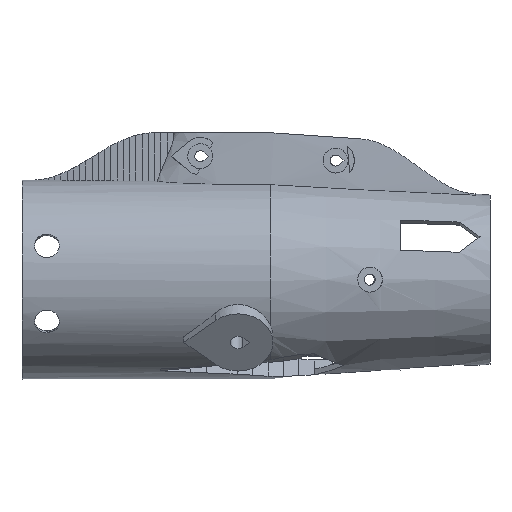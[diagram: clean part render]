
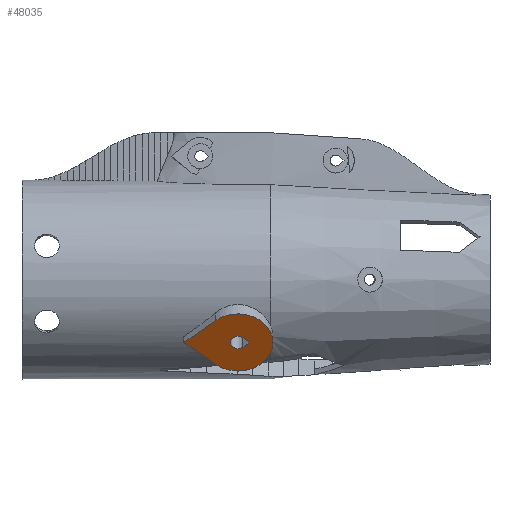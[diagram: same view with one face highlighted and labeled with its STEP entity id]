
A CAD part, front view. The second image highlights one B-rep face of the part: STEP entity #48035.
In plain terms, the highlighted planar face has unit normal (0, -0.819, -0.574).
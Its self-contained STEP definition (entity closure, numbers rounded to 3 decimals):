
#1913 = CYLINDRICAL_SURFACE('',#1914,7.);
#1914 = AXIS2_PLACEMENT_3D('',#1915,#1916,#1917);
#1915 = CARTESIAN_POINT('',(413.4,-9.83,-6.883));
#1916 = DIRECTION('',(-0.,-0.819,-0.574));
#1917 = DIRECTION('',(-0.,-0.574,0.819));
#1984 = PLANE('',#1985);
#1985 = AXIS2_PLACEMENT_3D('',#1986,#1987,#1988);
#1986 = CARTESIAN_POINT('',(408.9,-6.754,
    -11.275));
#1987 = DIRECTION('',(0.643,-0.439,0.628));
#1988 = DIRECTION('',(0.766,0.369,-0.527));
#2016 = PLANE('',#2017);
#2017 = AXIS2_PLACEMENT_3D('',#2018,#2019,#2020);
#2018 = CARTESIAN_POINT('',(402.51,-9.83,
    -6.883));
#2019 = DIRECTION('',(0.643,0.439,-0.628));
#2020 = DIRECTION('',(-0.766,0.369,-0.527));
#47898 = CYLINDRICAL_SURFACE('',#47899,1.525);
#47899 = AXIS2_PLACEMENT_3D('',#47900,#47901,#47902);
#47900 = CARTESIAN_POINT('',(413.4,-4.096,-2.868));
#47901 = DIRECTION('',(-0.,-0.819,-0.574));
#47902 = DIRECTION('',(-0.,-0.574,0.819));
#47926 = PLANE('',#47927);
#47927 = AXIS2_PLACEMENT_3D('',#47928,#47929,#47930);
#47928 = CARTESIAN_POINT('',(414.38,-3.426,
    -3.825));
#47929 = DIRECTION('',(0.643,0.439,-0.628));
#47930 = DIRECTION('',(-0.766,0.369,-0.527));
#47951 = PLANE('',#47952);
#47952 = AXIS2_PLACEMENT_3D('',#47953,#47954,#47955);
#47953 = CARTESIAN_POINT('',(415.772,-4.096,
    -2.868));
#47954 = DIRECTION('',(0.643,-0.439,0.628));
#47955 = DIRECTION('',(0.766,0.369,-0.527));
#47967 = VERTEX_POINT('',#47968);
#47968 = CARTESIAN_POINT('',(415.772,-18.021,
    -12.619));
#47989 = EDGE_CURVE('',#47967,#47990,#47992,.T.);
#47990 = VERTEX_POINT('',#47991);
#47991 = CARTESIAN_POINT('',(414.38,-18.691,
    -11.662));
#47992 = SURFACE_CURVE('',#47993,(#47997,#48003),.PCURVE_S1.);
#47993 = LINE('',#47994,#47995);
#47994 = CARTESIAN_POINT('',(415.076,-18.356,
    -12.14));
#47995 = VECTOR('',#47996,1.);
#47996 = DIRECTION('',(-0.766,-0.369,0.527));
#47997 = PCURVE('',#47951,#47998);
#47998 = DEFINITIONAL_REPRESENTATION('',(#47999),#48002);
#47999 = B_SPLINE_CURVE_WITH_KNOTS('',1,(#48000,#48001),.UNSPECIFIED.,
  .F.,.F.,(2,2),(-0.909,0.909),
  .PIECEWISE_BEZIER_KNOTS.);
#48000 = CARTESIAN_POINT('',(0.,-17.));
#48001 = CARTESIAN_POINT('',(-1.817,-17.));
#48002 = ( GEOMETRIC_REPRESENTATION_CONTEXT(2) 
PARAMETRIC_REPRESENTATION_CONTEXT() REPRESENTATION_CONTEXT('2D SPACE',''
  ) );
#48003 = PCURVE('',#48004,#48009);
#48004 = PLANE('',#48005);
#48005 = AXIS2_PLACEMENT_3D('',#48006,#48007,#48008);
#48006 = CARTESIAN_POINT('',(413.4,-18.021,-12.619));
#48007 = DIRECTION('',(-0.,-0.819,-0.574));
#48008 = DIRECTION('',(0.,0.574,-0.819));
#48009 = DEFINITIONAL_REPRESENTATION('',(#48010),#48014);
#48010 = LINE('',#48011,#48012);
#48011 = CARTESIAN_POINT('',(-0.584,1.676));
#48012 = VECTOR('',#48013,1.);
#48013 = DIRECTION('',(-0.643,-0.766));
#48014 = ( GEOMETRIC_REPRESENTATION_CONTEXT(2) 
PARAMETRIC_REPRESENTATION_CONTEXT() REPRESENTATION_CONTEXT('2D SPACE',''
  ) );
#48035 = ADVANCED_FACE('',(#48036,#48112),#48004,.T.);
#48036 = FACE_BOUND('',#48037,.F.);
#48037 = EDGE_LOOP('',(#48038,#48068,#48091));
#48038 = ORIENTED_EDGE('',*,*,#48039,.T.);
#48039 = EDGE_CURVE('',#48040,#48042,#48044,.T.);
#48040 = VERTEX_POINT('',#48041);
#48041 = CARTESIAN_POINT('',(408.9,-21.097,
    -8.226));
#48042 = VERTEX_POINT('',#48043);
#48043 = CARTESIAN_POINT('',(408.9,-14.946,
    -17.011));
#48044 = SURFACE_CURVE('',#48045,(#48050,#48061),.PCURVE_S1.);
#48045 = CIRCLE('',#48046,7.);
#48046 = AXIS2_PLACEMENT_3D('',#48047,#48048,#48049);
#48047 = CARTESIAN_POINT('',(413.4,-18.021,-12.619));
#48048 = DIRECTION('',(0.,0.819,0.574));
#48049 = DIRECTION('',(-0.643,-0.439,0.628));
#48050 = PCURVE('',#48004,#48051);
#48051 = DEFINITIONAL_REPRESENTATION('',(#48052),#48060);
#48052 = ( BOUNDED_CURVE() B_SPLINE_CURVE(2,(#48053,#48054,#48055,#48056
    ,#48057,#48058,#48059),.UNSPECIFIED.,.T.,.F.) 
B_SPLINE_CURVE_WITH_KNOTS((1,2,2,2,2,1),(-2.094,0.,
    2.094,4.189,6.283,8.378),
.UNSPECIFIED.) CURVE() GEOMETRIC_REPRESENTATION_ITEM() 
RATIONAL_B_SPLINE_CURVE((1.,0.5,1.,0.5,1.,0.5,1.)) REPRESENTATION_ITEM(
  '') );
#48053 = CARTESIAN_POINT('',(-5.362,-4.5));
#48054 = CARTESIAN_POINT('',(-13.156,4.788));
#48055 = CARTESIAN_POINT('',(-1.216,6.894));
#48056 = CARTESIAN_POINT('',(10.725,8.999));
#48057 = CARTESIAN_POINT('',(6.578,-2.394));
#48058 = CARTESIAN_POINT('',(2.431,-13.787));
#48059 = CARTESIAN_POINT('',(-5.362,-4.5));
#48060 = ( GEOMETRIC_REPRESENTATION_CONTEXT(2) 
PARAMETRIC_REPRESENTATION_CONTEXT() REPRESENTATION_CONTEXT('2D SPACE',''
  ) );
#48061 = PCURVE('',#1913,#48062);
#48062 = DEFINITIONAL_REPRESENTATION('',(#48063),#48067);
#48063 = LINE('',#48064,#48065);
#48064 = CARTESIAN_POINT('',(-5.585,10.));
#48065 = VECTOR('',#48066,1.);
#48066 = DIRECTION('',(-1.,0.));
#48067 = ( GEOMETRIC_REPRESENTATION_CONTEXT(2) 
PARAMETRIC_REPRESENTATION_CONTEXT() REPRESENTATION_CONTEXT('2D SPACE',''
  ) );
#48068 = ORIENTED_EDGE('',*,*,#48069,.T.);
#48069 = EDGE_CURVE('',#48042,#48070,#48072,.T.);
#48070 = VERTEX_POINT('',#48071);
#48071 = CARTESIAN_POINT('',(402.51,-18.021,
    -12.619));
#48072 = SURFACE_CURVE('',#48073,(#48077,#48084),.PCURVE_S1.);
#48073 = LINE('',#48074,#48075);
#48074 = CARTESIAN_POINT('',(408.9,-14.946,
    -17.011));
#48075 = VECTOR('',#48076,1.);
#48076 = DIRECTION('',(-0.766,-0.369,0.527));
#48077 = PCURVE('',#48004,#48078);
#48078 = DEFINITIONAL_REPRESENTATION('',(#48079),#48083);
#48079 = LINE('',#48080,#48081);
#48080 = CARTESIAN_POINT('',(5.362,-4.5));
#48081 = VECTOR('',#48082,1.);
#48082 = DIRECTION('',(-0.643,-0.766));
#48083 = ( GEOMETRIC_REPRESENTATION_CONTEXT(2) 
PARAMETRIC_REPRESENTATION_CONTEXT() REPRESENTATION_CONTEXT('2D SPACE',''
  ) );
#48084 = PCURVE('',#1984,#48085);
#48085 = DEFINITIONAL_REPRESENTATION('',(#48086),#48090);
#48086 = LINE('',#48087,#48088);
#48087 = CARTESIAN_POINT('',(0.,-10.));
#48088 = VECTOR('',#48089,1.);
#48089 = DIRECTION('',(-1.,0.));
#48090 = ( GEOMETRIC_REPRESENTATION_CONTEXT(2) 
PARAMETRIC_REPRESENTATION_CONTEXT() REPRESENTATION_CONTEXT('2D SPACE',''
  ) );
#48091 = ORIENTED_EDGE('',*,*,#48092,.T.);
#48092 = EDGE_CURVE('',#48070,#48040,#48093,.T.);
#48093 = SURFACE_CURVE('',#48094,(#48098,#48105),.PCURVE_S1.);
#48094 = LINE('',#48095,#48096);
#48095 = CARTESIAN_POINT('',(402.51,-18.021,
    -12.619));
#48096 = VECTOR('',#48097,1.);
#48097 = DIRECTION('',(0.766,-0.369,0.527));
#48098 = PCURVE('',#48004,#48099);
#48099 = DEFINITIONAL_REPRESENTATION('',(#48100),#48104);
#48100 = LINE('',#48101,#48102);
#48101 = CARTESIAN_POINT('',(-0.,-10.89));
#48102 = VECTOR('',#48103,1.);
#48103 = DIRECTION('',(-0.643,0.766));
#48104 = ( GEOMETRIC_REPRESENTATION_CONTEXT(2) 
PARAMETRIC_REPRESENTATION_CONTEXT() REPRESENTATION_CONTEXT('2D SPACE',''
  ) );
#48105 = PCURVE('',#2016,#48106);
#48106 = DEFINITIONAL_REPRESENTATION('',(#48107),#48111);
#48107 = LINE('',#48108,#48109);
#48108 = CARTESIAN_POINT('',(0.,-10.));
#48109 = VECTOR('',#48110,1.);
#48110 = DIRECTION('',(-1.,0.));
#48111 = ( GEOMETRIC_REPRESENTATION_CONTEXT(2) 
PARAMETRIC_REPRESENTATION_CONTEXT() REPRESENTATION_CONTEXT('2D SPACE',''
  ) );
#48112 = FACE_BOUND('',#48113,.F.);
#48113 = EDGE_LOOP('',(#48114,#48142,#48162));
#48114 = ORIENTED_EDGE('',*,*,#48115,.F.);
#48115 = EDGE_CURVE('',#48116,#47990,#48118,.T.);
#48116 = VERTEX_POINT('',#48117);
#48117 = CARTESIAN_POINT('',(414.38,-17.351,
    -13.576));
#48118 = SURFACE_CURVE('',#48119,(#48124,#48135),.PCURVE_S1.);
#48119 = CIRCLE('',#48120,1.525);
#48120 = AXIS2_PLACEMENT_3D('',#48121,#48122,#48123);
#48121 = CARTESIAN_POINT('',(413.4,-18.021,-12.619));
#48122 = DIRECTION('',(0.,0.819,0.574)
  );
#48123 = DIRECTION('',(0.643,0.439,-0.628));
#48124 = PCURVE('',#48004,#48125);
#48125 = DEFINITIONAL_REPRESENTATION('',(#48126),#48134);
#48126 = ( BOUNDED_CURVE() B_SPLINE_CURVE(2,(#48127,#48128,#48129,#48130
    ,#48131,#48132,#48133),.UNSPECIFIED.,.T.,.F.) 
B_SPLINE_CURVE_WITH_KNOTS((1,2,2,2,2,1),(-2.094,0.,
    2.094,4.189,6.283,8.378),
.UNSPECIFIED.) CURVE() GEOMETRIC_REPRESENTATION_ITEM() 
RATIONAL_B_SPLINE_CURVE((1.,0.5,1.,0.5,1.,0.5,1.)) REPRESENTATION_ITEM(
  '') );
#48127 = CARTESIAN_POINT('',(1.168,0.98));
#48128 = CARTESIAN_POINT('',(2.866,-1.043));
#48129 = CARTESIAN_POINT('',(0.265,-1.502));
#48130 = CARTESIAN_POINT('',(-2.336,-1.961));
#48131 = CARTESIAN_POINT('',(-1.433,0.522));
#48132 = CARTESIAN_POINT('',(-0.53,3.004));
#48133 = CARTESIAN_POINT('',(1.168,0.98));
#48134 = ( GEOMETRIC_REPRESENTATION_CONTEXT(2) 
PARAMETRIC_REPRESENTATION_CONTEXT() REPRESENTATION_CONTEXT('2D SPACE',''
  ) );
#48135 = PCURVE('',#47898,#48136);
#48136 = DEFINITIONAL_REPRESENTATION('',(#48137),#48141);
#48137 = LINE('',#48138,#48139);
#48138 = CARTESIAN_POINT('',(-2.443,17.));
#48139 = VECTOR('',#48140,1.);
#48140 = DIRECTION('',(-1.,-0.));
#48141 = ( GEOMETRIC_REPRESENTATION_CONTEXT(2) 
PARAMETRIC_REPRESENTATION_CONTEXT() REPRESENTATION_CONTEXT('2D SPACE',''
  ) );
#48142 = ORIENTED_EDGE('',*,*,#48143,.T.);
#48143 = EDGE_CURVE('',#48116,#47967,#48144,.T.);
#48144 = SURFACE_CURVE('',#48145,(#48149,#48156),.PCURVE_S1.);
#48145 = LINE('',#48146,#48147);
#48146 = CARTESIAN_POINT('',(414.38,-17.351,
    -13.576));
#48147 = VECTOR('',#48148,1.);
#48148 = DIRECTION('',(0.766,-0.369,0.527));
#48149 = PCURVE('',#48004,#48150);
#48150 = DEFINITIONAL_REPRESENTATION('',(#48151),#48155);
#48151 = LINE('',#48152,#48153);
#48152 = CARTESIAN_POINT('',(1.168,0.98));
#48153 = VECTOR('',#48154,1.);
#48154 = DIRECTION('',(-0.643,0.766));
#48155 = ( GEOMETRIC_REPRESENTATION_CONTEXT(2) 
PARAMETRIC_REPRESENTATION_CONTEXT() REPRESENTATION_CONTEXT('2D SPACE',''
  ) );
#48156 = PCURVE('',#47926,#48157);
#48157 = DEFINITIONAL_REPRESENTATION('',(#48158),#48161);
#48158 = B_SPLINE_CURVE_WITH_KNOTS('',1,(#48159,#48160),.UNSPECIFIED.,
  .F.,.F.,(2,2),(0.,1.817),
  .PIECEWISE_BEZIER_KNOTS.);
#48159 = CARTESIAN_POINT('',(0.,-17.));
#48160 = CARTESIAN_POINT('',(-1.817,-17.));
#48161 = ( GEOMETRIC_REPRESENTATION_CONTEXT(2) 
PARAMETRIC_REPRESENTATION_CONTEXT() REPRESENTATION_CONTEXT('2D SPACE',''
  ) );
#48162 = ORIENTED_EDGE('',*,*,#47989,.T.);
